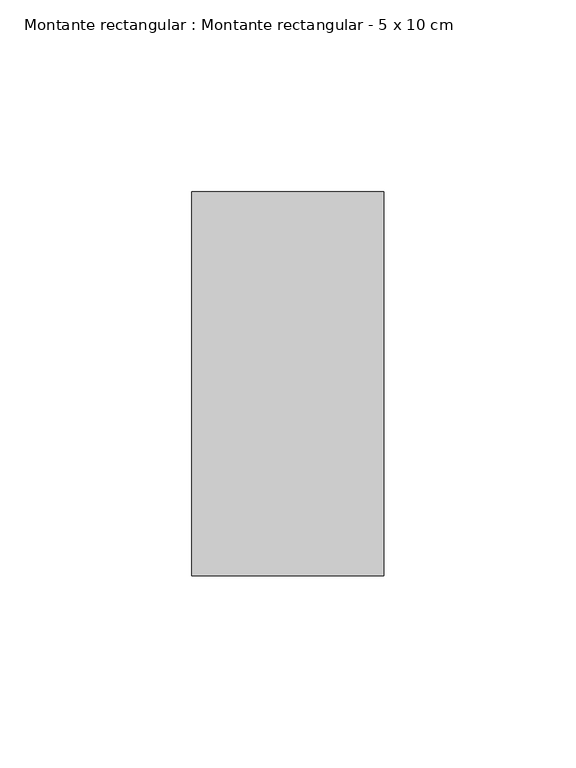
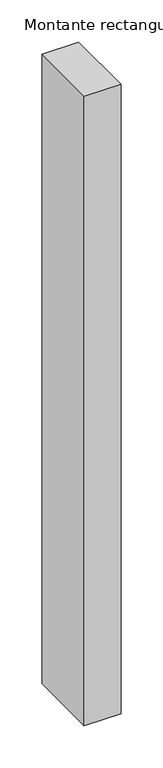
"""IFC4 building model written with IfcOpenShell, lengths in millimetres: member geometry, Montante rectangular : Montante rectangular - 5 x 10 cm."""

from ifc_helpers import new_model, si_unit, frame, origin, place, context, project, spatial, polyline, outline, extrude, source, transform, mapped, element, save


def montante_rectangular_montante_rectangular_5_x_10_cm_8788ed63(model_context):
    return source(origin(), model_context, "Body", "SweptSolid", [
        extrude(outline(polyline([(0.0, 50.0), (0.0, -50.0), (-50.0, -50.0), (-50.0, 50.0), (0.0, 50.0)])), frame((0.0, 0.0, -910.0), z_axis=(0.0, 0.0, 1.0), x_axis=(1.0, 0.0, 0.0)), (0.0, 0.0, 1.0), 910.0),
    ])


if __name__ == "__main__":
    model = new_model("IFC4")
    model_context = context("Model", 3, world=origin())
    ifc_project = project(units=[si_unit("LENGTHUNIT", "METRE", prefix="MILLI")], contexts=[model_context])
    site = spatial("IfcSite", under=ifc_project)
    building = spatial("IfcBuilding", under=site)
    placement = place(None, origin())
    montante_rectangular_montante_rectangular_5_x_10_cm_shape = montante_rectangular_montante_rectangular_5_x_10_cm_8788ed63(model_context)
    element("IfcMember", 1, ObjectType="Montante rectangular : Montante rectangular - 5 x 10 cm", at=placement, inside=building, context=model_context, shape_type="MappedRepresentation", body=[
        mapped(montante_rectangular_montante_rectangular_5_x_10_cm_shape, transform((0.0, 0.0, 0.0), x_axis=(1.0, 0.0, 0.0), y_axis=(0.0, 1.0, 0.0), z_axis=(0.0, 0.0, 1.0))),
    ])
    save(model, "model.ifc")
